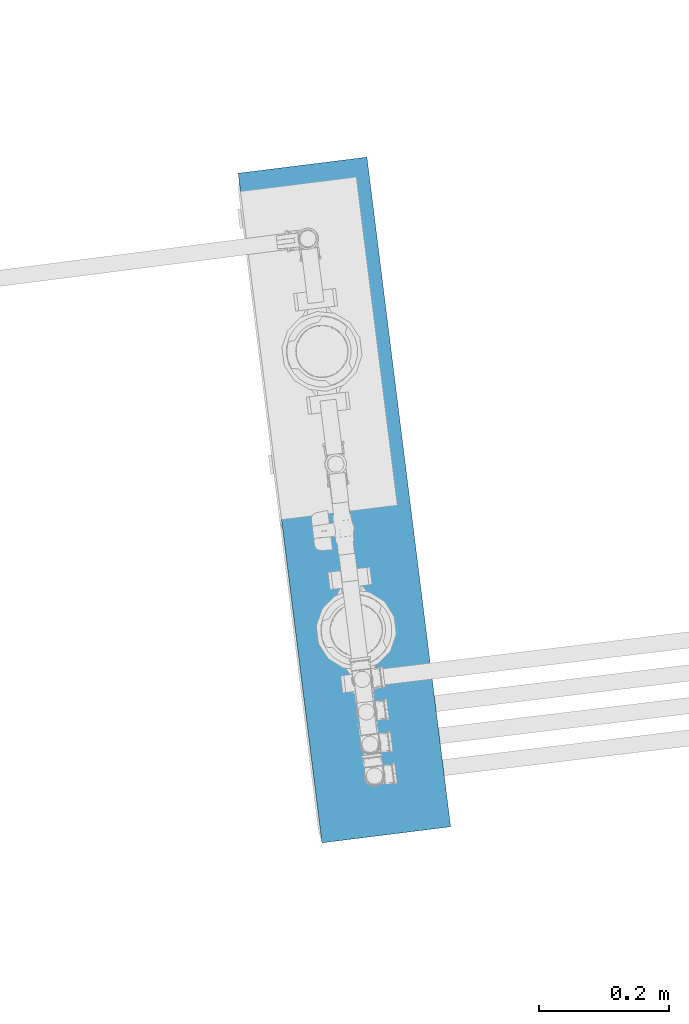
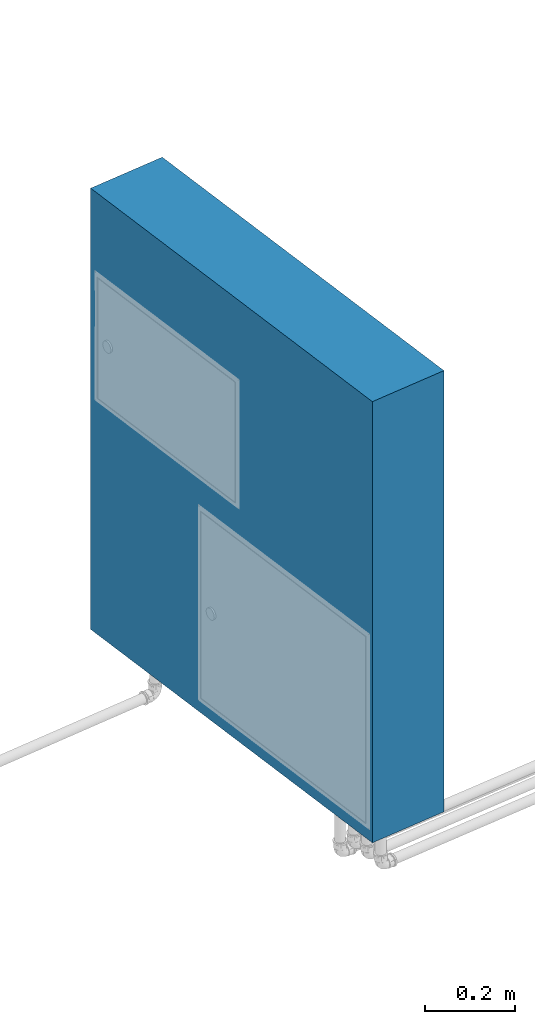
# One storey, part 1 of 97: 1 wall.
"""IFC2X3 building model written with IfcOpenShell, lengths in centimetres."""

from ifc_helpers import new_model, entity, si_unit, converted_unit, derived_unit, direction, frame, frame_2d, origin, place, context, subcontext, project, spatial, rectangle, extrude, material, layer, layer_set, layer_usage, type_object, element, save


model = new_model("IFC2X3")

# Units and contexts
model_context = context("Model", 3, precision=0.001, world=origin(), true_north=direction((6.12303176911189e-17, 1.0)))
body_context = subcontext(model_context, "Body", "Model", "MODEL_VIEW")
ifc_project = project(units=[si_unit("LENGTHUNIT", "METRE", prefix="CENTI"), si_unit("AREAUNIT", "SQUARE_METRE"), si_unit("VOLUMEUNIT", "CUBIC_METRE"), converted_unit("PLANEANGLEUNIT", "DEGREE", entity("IfcRatioMeasure", 0.0174532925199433), si_unit("PLANEANGLEUNIT", "RADIAN"), dimensions=[0, 0, 0, 0, 0, 0, 0]), si_unit("MASSUNIT", "GRAM", prefix="KILO"), derived_unit("MASSDENSITYUNIT", [(si_unit("MASSUNIT", "GRAM", prefix="KILO"), 1), (si_unit("LENGTHUNIT", "METRE"), -3)]), derived_unit("MOMENTOFINERTIAUNIT", [(si_unit("LENGTHUNIT", "METRE"), 4)]), si_unit("TIMEUNIT", "SECOND"), si_unit("FREQUENCYUNIT", "HERTZ"), si_unit("THERMODYNAMICTEMPERATUREUNIT", "DEGREE_CELSIUS"), derived_unit("THERMALTRANSMITTANCEUNIT", [(si_unit("MASSUNIT", "GRAM", prefix="KILO"), 1), (si_unit("THERMODYNAMICTEMPERATUREUNIT", "KELVIN"), -1), (si_unit("TIMEUNIT", "SECOND"), -3)]), derived_unit("VOLUMETRICFLOWRATEUNIT", [(si_unit("LENGTHUNIT", "METRE"), 3), (si_unit("TIMEUNIT", "SECOND"), -1)]), si_unit("ELECTRICCURRENTUNIT", "AMPERE"), si_unit("ELECTRICVOLTAGEUNIT", "VOLT"), si_unit("POWERUNIT", "WATT"), si_unit("FORCEUNIT", "NEWTON", prefix="KILO"), si_unit("ILLUMINANCEUNIT", "LUX"), si_unit("LUMINOUSFLUXUNIT", "LUMEN"), si_unit("LUMINOUSINTENSITYUNIT", "CANDELA"), derived_unit("USERDEFINED", [(si_unit("MASSUNIT", "GRAM", prefix="KILO"), -1), (si_unit("LENGTHUNIT", "METRE"), -2), (si_unit("TIMEUNIT", "SECOND"), 3), (si_unit("LUMINOUSFLUXUNIT", "LUMEN"), 1)]), derived_unit("LINEARVELOCITYUNIT", [(si_unit("LENGTHUNIT", "METRE"), 1), (si_unit("TIMEUNIT", "SECOND"), -1)]), si_unit("PRESSUREUNIT", "PASCAL"), derived_unit("USERDEFINED", [(si_unit("LENGTHUNIT", "METRE"), -2), (si_unit("MASSUNIT", "GRAM", prefix="KILO"), 1), (si_unit("TIMEUNIT", "SECOND"), -2)]), derived_unit("LINEARFORCEUNIT", [(si_unit("MASSUNIT", "GRAM", prefix="KILO"), 1), (si_unit("LENGTHUNIT", "METRE"), 1), (si_unit("TIMEUNIT", "SECOND"), -2), (si_unit("LENGTHUNIT", "METRE"), -1)]), derived_unit("PLANARFORCEUNIT", [(si_unit("MASSUNIT", "GRAM", prefix="KILO"), 1), (si_unit("LENGTHUNIT", "METRE"), 1), (si_unit("TIMEUNIT", "SECOND"), -2), (si_unit("LENGTHUNIT", "METRE"), -2)])], contexts=[model_context])

# Site, building, storey
site_placement = place(None, origin())
site = spatial("IfcSite", under=ifc_project, at=site_placement, Name="Default", CompositionType="ELEMENT")
building_placement = place(site_placement, origin())
building = spatial("IfcBuilding", under=site, at=building_placement, Name="HIDROSSANITÁRIO", CompositionType="ELEMENT")
storey_placement = place(building_placement, frame((0.0, 0.0, -260.0)))
storey = spatial("IfcBuildingStorey", under=building, at=storey_placement, Name="TÉRREO-HID", CompositionType="ELEMENT", Elevation=-260.0)

# Wall
ifc_material = material(Name="Default Wall")
ifc_layer = layer(ifc_material, 20.0)
ifc_layer_set = layer_set([ifc_layer], Name="Parede básica:Wall 1")
ifc_layer_usage = layer_usage(ifc_layer_set, "AXIS2", "NEGATIVE", 10.0)
wall_type = type_object("IfcWallType", Name="Parede básica:Wall 1", PredefinedType="STANDARD", material=ifc_layer_set)
wall_placement = place(storey_placement, frame((-2434.33178268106, 3199.2197557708, 0.0), z_axis=(0.0, 0.0, 1.0), x_axis=(-0.124024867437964, 0.992279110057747, 0.0)))
element("IfcWallStandardCase", 1, at=wall_placement, inside=storey, type_object=wall_type, material=ifc_layer_usage, Name="Parede básica:Wall 1", ObjectType="Parede básica:Wall 1", context=body_context, shape_type="SweptSolid", body=[
    extrude(rectangle(XDim=104.0, YDim=20.0000000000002, at=frame_2d((52.0, -5.86197757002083e-14), x_axis=(-1.0, 0.0))), origin(), (0.0, 0.0, 1.0), 120.0),
])

save(model, "model.ifc")
